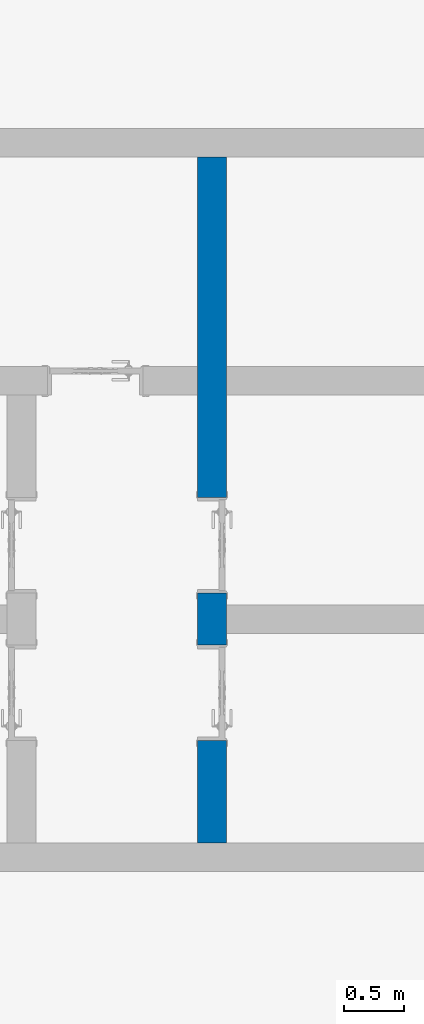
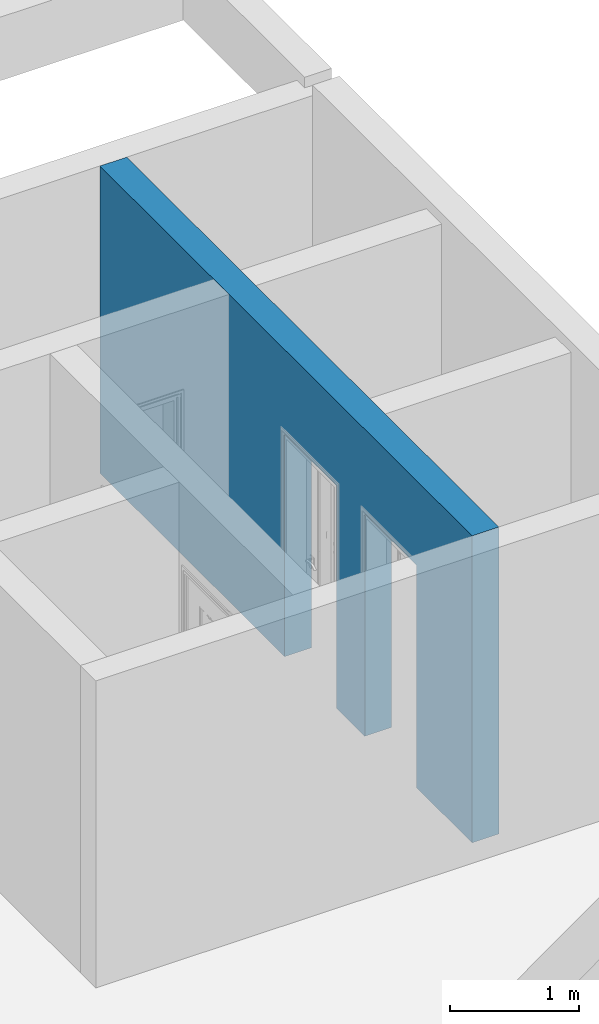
# One storey, part 10 of 16: 1 wall, 2 openings.
"""IFC2X3 building model written with IfcOpenShell, lengths in millimetres."""

from ifc_helpers import new_model, entity, si_unit, converted_unit, derived_unit, direction, frame, frame_2d, origin, place, context, subcontext, project, spatial, polyline, rectangle, extrude, clip, bounded_halfspace, material, layer, layer_set, layer_usage, type_object, element, save


model = new_model("IFC2X3")

# Units and contexts
model_context = context("Model", 3, precision=0.01, world=origin(), true_north=direction((6.12303176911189e-17, 1.0)))
body_context = subcontext(model_context, "Body", "Model", "MODEL_VIEW")
ifc_project = project(units=[si_unit("LENGTHUNIT", "METRE", prefix="MILLI"), si_unit("AREAUNIT", "SQUARE_METRE"), si_unit("VOLUMEUNIT", "CUBIC_METRE"), converted_unit("PLANEANGLEUNIT", "DEGREE", entity("IfcRatioMeasure", 0.0174532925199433), si_unit("PLANEANGLEUNIT", "RADIAN"), dimensions=[0, 0, 0, 0, 0, 0, 0]), si_unit("MASSUNIT", "GRAM", prefix="KILO"), derived_unit("MASSDENSITYUNIT", [(si_unit("MASSUNIT", "GRAM", prefix="KILO"), 1), (si_unit("LENGTHUNIT", "METRE"), -3)]), si_unit("TIMEUNIT", "SECOND"), si_unit("FREQUENCYUNIT", "HERTZ"), si_unit("THERMODYNAMICTEMPERATUREUNIT", "DEGREE_CELSIUS"), derived_unit("THERMALTRANSMITTANCEUNIT", [(si_unit("MASSUNIT", "GRAM", prefix="KILO"), 1), (si_unit("THERMODYNAMICTEMPERATUREUNIT", "KELVIN"), -1), (si_unit("TIMEUNIT", "SECOND"), -3)]), derived_unit("VOLUMETRICFLOWRATEUNIT", [(si_unit("LENGTHUNIT", "METRE"), 3), (si_unit("TIMEUNIT", "SECOND"), -1)]), si_unit("ELECTRICCURRENTUNIT", "AMPERE"), si_unit("ELECTRICVOLTAGEUNIT", "VOLT"), si_unit("POWERUNIT", "WATT"), si_unit("FORCEUNIT", "NEWTON", prefix="KILO"), si_unit("ILLUMINANCEUNIT", "LUX"), si_unit("LUMINOUSFLUXUNIT", "LUMEN"), si_unit("LUMINOUSINTENSITYUNIT", "CANDELA"), derived_unit("USERDEFINED", [(si_unit("MASSUNIT", "GRAM", prefix="KILO"), -1), (si_unit("LENGTHUNIT", "METRE"), -2), (si_unit("TIMEUNIT", "SECOND"), 3), (si_unit("LUMINOUSFLUXUNIT", "LUMEN"), 1)]), derived_unit("LINEARVELOCITYUNIT", [(si_unit("LENGTHUNIT", "METRE"), 1), (si_unit("TIMEUNIT", "SECOND"), -1)]), si_unit("PRESSUREUNIT", "PASCAL"), derived_unit("USERDEFINED", [(si_unit("LENGTHUNIT", "METRE"), -2), (si_unit("MASSUNIT", "GRAM", prefix="KILO"), 1), (si_unit("TIMEUNIT", "SECOND"), -2)])], contexts=[model_context])

# Site, building, storey
site_placement = place(None, origin())
site = spatial("IfcSite", under=ifc_project, at=site_placement, Name="表面", CompositionType="ELEMENT")
building_placement = place(site_placement, origin())
building = spatial("IfcBuilding", under=site, at=building_placement, CompositionType="ELEMENT")
storey_placement = place(building_placement, frame((0.0, 0.0, 3000.0)))
storey = spatial("IfcBuildingStorey", under=building, at=storey_placement, Name="2F", CompositionType="ELEMENT", Elevation=3000.00000000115)

# Wall, openings
ifc_material_1 = material(Name="白色涂料")
ifc_layer_1 = layer(ifc_material_1, 10.0)
ifc_material_2 = material(Name="默认墙")
ifc_layer_2 = layer(ifc_material_2, 220.0)
ifc_layer_3 = layer(ifc_material_1, 10.0)
ifc_layer_set = layer_set([ifc_layer_1, ifc_layer_2, ifc_layer_3], Name="基本墙:粉刷墙240")
ifc_layer_usage = layer_usage(ifc_layer_set, "AXIS2", "NEGATIVE", 120.0)
wall_type = type_object("IfcWallType", Name="基本墙:粉刷墙240", PredefinedType="STANDARD", material=ifc_layer_set)
wall_placement = place(storey_placement, frame((-8530.24991264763, -2196.86842665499, 0.0), z_axis=(0.0, 0.0, 1.0), x_axis=(0.0, 1.0, 0.0)))
wall = element("IfcWallStandardCase", 1, at=wall_placement, inside=storey, type_object=wall_type, material=ifc_layer_usage, Name="基本墙:粉刷墙240", ObjectType="基本墙:粉刷墙240", context=body_context, shape_type="Clipping", body=[
    clip(extrude(rectangle(XDim=5759.99999999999, YDim=240.0, at=frame_2d((2880.0, -4.54747350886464e-13), x_axis=(-1.0, 0.0))), origin(), (0.0, 0.0, 1.0), 2900.0), bounded_halfspace(frame((0.0, -120.0, 2900.0), z_axis=(0.0, 0.0, -1.0), x_axis=(-1.0, 0.0, 0.0)), True, frame((0.0, -120.0, 2900.0)), polyline([(0.0, 0.0), (1760.0, 0.0), (2000.0, 0.0), (3760.0, 0.0), (4000.0, 0.0), (5760.0, 0.0), (5760.0, 240.0), (4000.0, 240.0), (3760.0, 240.0), (0.0, 240.0), (0.0, 0.0)]))),
])
opening_1_placement = place(wall_placement, frame((2900.0, 120.0, 1.15433635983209e-09)))
element("IfcOpeningElement", 2, at=opening_1_placement, cuts=wall, Name="装饰木门:M0821:1", ObjectType="Opening", context=body_context, shape_type="SweptSolid", body=[
    extrude(rectangle(XDim=2099.99999999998, YDim=800.0, at=frame_2d((1049.99999999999, 400.0), x_axis=(1.0, 0.0))), frame((0.0, 0.0, 0.0), z_axis=(0.0, -1.0, 0.0), x_axis=(0.0, 0.0, 1.0)), (0.0, 0.0, 1.0), 240.0),
])
opening_2_placement = place(wall_placement, frame((1660.0, 120.0, 1.15433635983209e-09)))
element("IfcOpeningElement", 3, at=opening_2_placement, cuts=wall, Name="装饰木门:M0821:1", ObjectType="Opening", context=body_context, shape_type="SweptSolid", body=[
    extrude(rectangle(XDim=2099.99999999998, YDim=800.0, at=frame_2d((1049.99999999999, 400.0), x_axis=(1.0, 0.0))), frame((0.0, 0.0, 0.0), z_axis=(0.0, -1.0, 0.0), x_axis=(0.0, 0.0, 1.0)), (0.0, 0.0, 1.0), 240.0),
])

save(model, "model.ifc")
